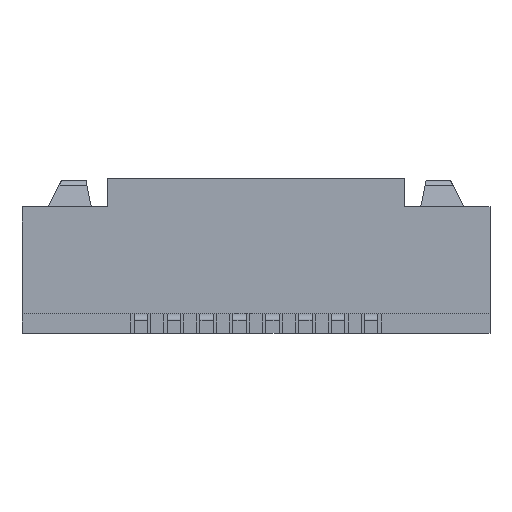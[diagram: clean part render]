
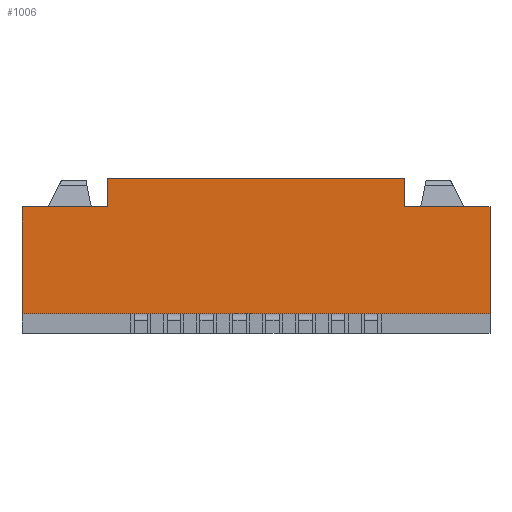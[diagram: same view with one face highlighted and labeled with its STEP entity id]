
A CAD part, front view. The second image highlights one B-rep face of the part: STEP entity #1006.
In plain terms, the highlighted planar face has unit normal (0, -1, 0).
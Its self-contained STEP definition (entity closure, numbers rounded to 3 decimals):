
#399=CARTESIAN_POINT('Vertex',(-2.25,-2.4,1.92)) ;
#402=CARTESIAN_POINT('Line Origine',(-2.25,-2.4,2.135)) ;
#406=CARTESIAN_POINT('Vertex',(-2.25,-2.4,2.35)) ;
#944=CARTESIAN_POINT('Axis2P3D Location',(0.,-2.4,0.3)) ;
#949=CARTESIAN_POINT('Line Origine',(-2.9,-2.4,1.92)) ;
#953=CARTESIAN_POINT('Vertex',(-3.55,-2.4,1.92)) ;
#956=CARTESIAN_POINT('Line Origine',(-3.55,-2.4,1.11)) ;
#960=CARTESIAN_POINT('Vertex',(-3.55,-2.4,0.3)) ;
#963=CARTESIAN_POINT('Line Origine',(0.,-2.4,0.3)) ;
#967=CARTESIAN_POINT('Vertex',(3.55,-2.4,0.3)) ;
#970=CARTESIAN_POINT('Line Origine',(3.55,-2.4,1.11)) ;
#974=CARTESIAN_POINT('Vertex',(3.55,-2.4,1.92)) ;
#977=CARTESIAN_POINT('Line Origine',(2.9,-2.4,1.92)) ;
#981=CARTESIAN_POINT('Vertex',(2.25,-2.4,1.92)) ;
#984=CARTESIAN_POINT('Line Origine',(2.25,-2.4,2.135)) ;
#988=CARTESIAN_POINT('Vertex',(2.25,-2.4,2.35)) ;
#991=CARTESIAN_POINT('Line Origine',(0.,-2.4,2.35)) ;
#403=DIRECTION('Vector Direction',(0.,0.,-1.)) ;
#945=DIRECTION('Axis2P3D Direction',(0.,1.,0.)) ;
#946=DIRECTION('Axis2P3D XDirection',(0.,0.,1.)) ;
#950=DIRECTION('Vector Direction',(1.,0.,0.)) ;
#957=DIRECTION('Vector Direction',(0.,0.,1.)) ;
#964=DIRECTION('Vector Direction',(1.,0.,0.)) ;
#971=DIRECTION('Vector Direction',(0.,0.,1.)) ;
#978=DIRECTION('Vector Direction',(-1.,0.,0.)) ;
#985=DIRECTION('Vector Direction',(0.,0.,-1.)) ;
#992=DIRECTION('Vector Direction',(1.,0.,0.)) ;
#947=AXIS2_PLACEMENT_3D('Plane Axis2P3D',#944,#945,#946) ;
#997=ORIENTED_EDGE('',*,*,#408,.T.) ;
#998=ORIENTED_EDGE('',*,*,#955,.F.) ;
#999=ORIENTED_EDGE('',*,*,#962,.T.) ;
#1000=ORIENTED_EDGE('',*,*,#969,.T.) ;
#1001=ORIENTED_EDGE('',*,*,#976,.F.) ;
#1002=ORIENTED_EDGE('',*,*,#983,.T.) ;
#1003=ORIENTED_EDGE('',*,*,#990,.F.) ;
#1004=ORIENTED_EDGE('',*,*,#995,.F.) ;
#404=VECTOR('Line Direction',#403,1.) ;
#951=VECTOR('Line Direction',#950,1.) ;
#958=VECTOR('Line Direction',#957,1.) ;
#965=VECTOR('Line Direction',#964,1.) ;
#972=VECTOR('Line Direction',#971,1.) ;
#979=VECTOR('Line Direction',#978,1.) ;
#986=VECTOR('Line Direction',#985,1.) ;
#993=VECTOR('Line Direction',#992,1.) ;
#1006=ADVANCED_FACE('\X2\96F64EF651E04F554F53\X0\',(#1005),#948,.F.) ;
#408=EDGE_CURVE('',#407,#400,#405,.T.) ;
#955=EDGE_CURVE('',#954,#400,#952,.T.) ;
#962=EDGE_CURVE('',#954,#961,#959,.F.) ;
#969=EDGE_CURVE('',#961,#968,#966,.T.) ;
#976=EDGE_CURVE('',#975,#968,#973,.F.) ;
#983=EDGE_CURVE('',#975,#982,#980,.T.) ;
#990=EDGE_CURVE('',#989,#982,#987,.T.) ;
#995=EDGE_CURVE('',#407,#989,#994,.T.) ;
#996=EDGE_LOOP('',(#997,#998,#999,#1000,#1001,#1002,#1003,#1004)) ;
#1005=FACE_OUTER_BOUND('',#996,.T.) ;
#405=LINE('Line',#402,#404) ;
#952=LINE('Line',#949,#951) ;
#959=LINE('Line',#956,#958) ;
#966=LINE('Line',#963,#965) ;
#973=LINE('Line',#970,#972) ;
#980=LINE('Line',#977,#979) ;
#987=LINE('Line',#984,#986) ;
#994=LINE('Line',#991,#993) ;
#948=PLANE('Plane',#947) ;
#400=VERTEX_POINT('',#399) ;
#407=VERTEX_POINT('',#406) ;
#954=VERTEX_POINT('',#953) ;
#961=VERTEX_POINT('',#960) ;
#968=VERTEX_POINT('',#967) ;
#975=VERTEX_POINT('',#974) ;
#982=VERTEX_POINT('',#981) ;
#989=VERTEX_POINT('',#988) ;
